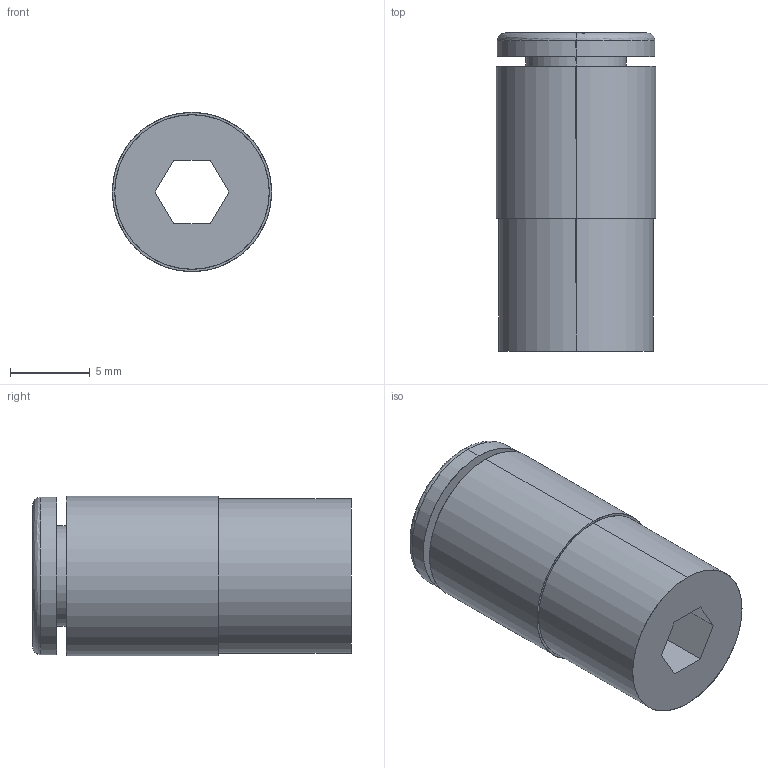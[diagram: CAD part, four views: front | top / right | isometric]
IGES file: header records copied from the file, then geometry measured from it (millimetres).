
Start section: SolidWorks IGES file using analytic representation for surfaces
Global section: file name: \\PSSILO\catalogs\SMCDatabase\KJ3064\cache\KJKJS0608212225294945.igs; native system: SolidWorks 2008; preprocessor: SolidWorks 2008; author: partstream; date: 080821.222536; units: millimetre
Bounding box: 10 x 20 x 10 mm (x, y, z)
Surface area: 1168.2 mm2 (no closed solid volume)
Topology: 0 solids, 0 shells, 26 faces, 412 edges, 412 vertices
Faces by surface type: bspline 16, revolution 10
